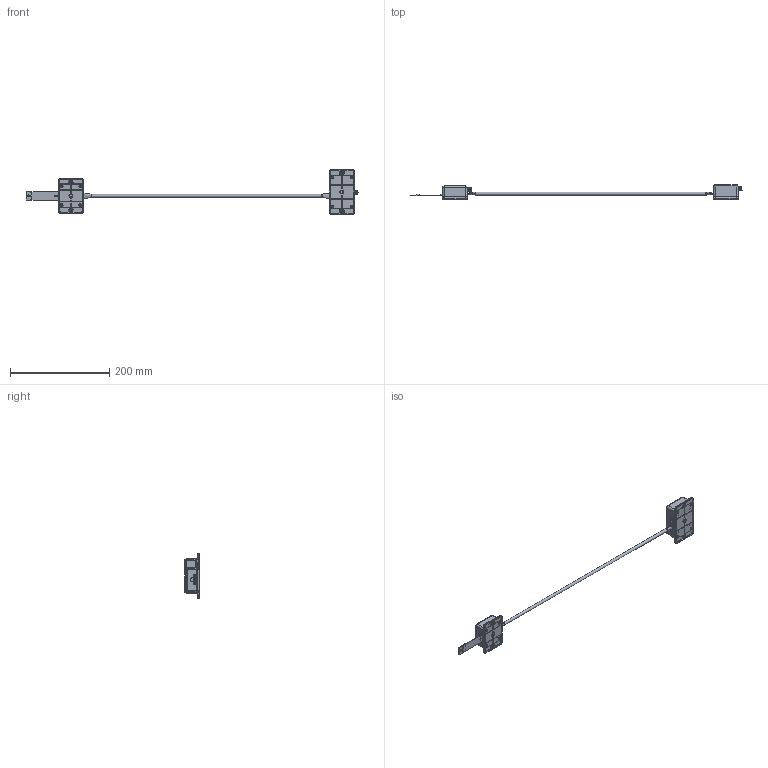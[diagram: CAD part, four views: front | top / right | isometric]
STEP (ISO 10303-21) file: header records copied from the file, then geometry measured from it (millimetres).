
FILE_DESCRIPTION(/* description */ (''),/* implementation_level */ '2;1');
FILE_NAME(/* name */ 'C:/Users/tyamada/Desktop/STEPファイル形式/30一体.step',/* time_stamp */ '2021-03-01T14:31:12+09:00',/* author */ (''),/* organization */ (''),/* preprocessor_version */ 'ST-DEVELOPER v18.1',/* originating_system */ 'Autodesk Translation Framework v9.7.1.1290',/* authorisation */ '');
FILE_SCHEMA (('AUTOMOTIVE_DESIGN { 1 0 10303 214 3 1 1 }'));
Products named in the file (48): 30一体; コントロールBOX_twf5-3-7 v5; tw5-3-7; tw5-3-7(下ｶﾊﾞｰ) (1); twf5-7(ﾌﾗﾝｼﾞ); JIS B 1122 - M2 (2); 基板; S6B-PH-SM4-TB v2; S5B-PH-SM4-TB v2; DF52-20S-0.8H v1; S2B-XH-A v1; 取り付けねじ; トランス分離、一体BOX v8; トランス分離,一体BOX_t
wf5-3-5 v1; TWF5-5_フランジ (1); TWF5-X-5-01 (1); JIS B 1122 - M2 (1); アース取り付け端子; コンポーネント52; トランス一体基板; F2_TO_30; F2_TO_部品 v4; S6B-PH-SM4-TB v2_1; トランス; チップ抵抗; パッド (1); コンポーネント12; コンポーネント11; アキシャル抵抗; ハンダ; リード線; マイカ電極; 基板_1; 充填材; 充填材 (1); 充填材 (2); 低圧ハーネス v3; ロボットケーブル; ロボットケーブル内部配線; ロボットケーブル内部配線_
1 ...
Assembly tree (66 placements, depth 7):
  30一体
    コントロールBOX_twf5-3-7 v5
      tw5-3-7
        tw5-3-7(下ｶﾊﾞｰ) (1)
        twf5-7(ﾌﾗﾝｼﾞ)
        JIS B 1122 - M2 (2)  x4
      基板
        取り付けねじ  x4
        S6B-PH-SM4-TB v2
        S5B-PH-SM4-TB v2
        DF52-20S-0.8H v1
        S2B-XH-A v1
      アース取り付け端子
        コンポーネント52
    トランス分離、一体BOX v8
      トランス分離,一体BOX_t
wf5-3-5 v1
        TWF5-5_フランジ (1)
        TWF5-X-5-01 (1)
        JIS B 1122 - M2 (1)  x4
        アース取り付け端子
          コンポーネント52
      トランス一体基板
        F2_TO_30
          F2_TO_部品 v4
            S6B-PH-SM4-TB v2_1
            トランス
            チップ抵抗
              パッド (1)
              コンポーネント12
              コンポーネント11
            アキシャル抵抗
              ハンダ
              リード線  x2
          マイカ電極
          基板_1
          充填材
          充填材 (1)
          充填材 (2)
    低圧ハーネス v3
      ロボットケーブル
        ロボットケーブル内部配線
          コンポーネント7
          コンポーネント9
          コンポーネント8
          コンポーネント10
          コンポーネント5
          コンポーネント11_1  x2
        ロボットケーブル内部配線_
1
          コンポーネント7
          コンポーネント9
          コンポーネント8
          コンポーネント10
          コンポーネント5
          コンポーネント11_1  x2
      PHR-6 v2
      PHR-6 v2 (1)
Bounding box: 668.03 x 29.9 x 90.4 mm (x, y, z)
Volume: 82219.3 mm3; surface area: 86904.7 mm2
Topology: 87 solids, 87 shells, 3022 faces, 7856 edges, 5128 vertices
Faces by surface type: plane 1929, cylinder 587, bspline 210, cone 170, torus 106, sphere 20
Full cylindrical faces by diameter (mm): 0.6 x4, 1 x27, 1.4 x16, 1.478 x16, 1.5 x3, 1.933 x32, 2 x8, 2.2 x7, 2.6 x8, 2.9 x8, 3 x3, 3.002 x4, 3.5 x9, 4 x16, 4.5 x8, 5 x12, 5.2 x8, 5.4 x8, 6 x4, 6.5 x3, 7 x6, 7.351 x6, 7.927 x10, 8 x1
Entity records: 88743 total; most frequent: CARTESIAN_POINT 22771, ORIENTED_EDGE 13710, DIRECTION 12732, EDGE_CURVE 6855, LINE 5104, VECTOR 5104, VERTEX_POINT 4476, AXIS2_PLACEMENT_3D 3814
